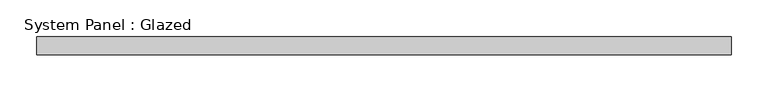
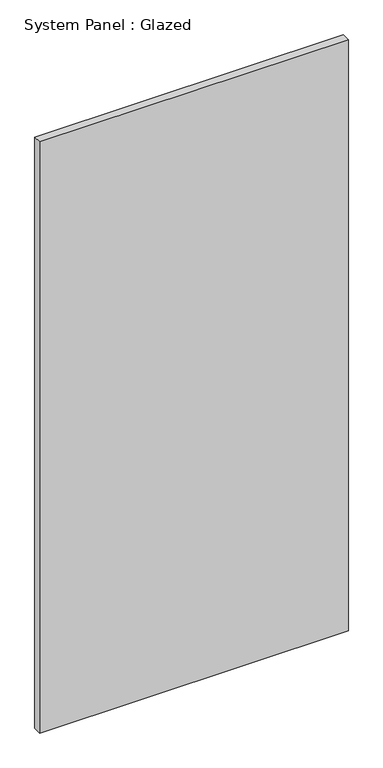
"""IFC4 building model written with IfcOpenShell, lengths in millimetres: plate geometry, System Panel : Glazed."""

import ifcopenshell
import ifcopenshell.guid

model = None  # the IFC model being written
_history = None  # IfcOwnerHistory: only IFC2X3 demands one
_inside = {}  # id of a spatial element -> (the spatial element, [elements in it])
_under = {}  # id of a project, library or spatial element -> (it, [spatial elements below it])
_declared = {}  # id of a project -> (the project, [libraries it declares])
_typed = {}  # id of a type object -> (the type object, [elements of that type])
_made_of = {}  # id of a material, layer set ... -> (it, [elements and type objects made of it])


def new_model(schema):
    """Start an empty IFC model of exactly this schema.

    Asked for "IFC4X3", IfcOpenShell would pick the latest addendum, in which some entities
    have other attributes; the version numbers below select the first issue.
    IFC2X3 requires an IfcOwnerHistory on every rooted entity: one is made here for all.
    """
    global model, _history
    if schema == "IFC4X3":
        model = ifcopenshell.file(schema_version=(4, 3, 0, 0))
    else:
        model = ifcopenshell.file(schema=schema)
    _inside.clear()
    _under.clear()
    _declared.clear()
    _typed.clear()
    _made_of.clear()
    _history = None
    if model.schema == "IFC2X3":
        org = make("IfcOrganization", Name="unknown")
        user = make(
            "IfcPersonAndOrganization",
            ThePerson=make("IfcPerson", FamilyName="unknown"),
            TheOrganization=org,
        )
        app = make(
            "IfcApplication",
            ApplicationDeveloper=org,
            Version="unknown",
            ApplicationFullName="unknown",
            ApplicationIdentifier="unknown",
        )
        _history = make(
            "IfcOwnerHistory",
            OwningUser=user,
            OwningApplication=app,
            ChangeAction="ADDED",
            CreationDate=0,
        )
    return model


def make(cls, **values):
    """One entity of the class cls with the attributes given. An attribute that is None is left unset."""
    return model.create_entity(
        cls, **{name: value for name, value in values.items() if value is not None}
    )


def rooted(cls, **values):
    """An entity with a GlobalId (a new one), such as an element, a storey or a relation."""
    return make(cls, GlobalId=ifcopenshell.guid.new(), OwnerHistory=_history, **values)


def si_unit(unit_type, name, prefix=None):
    """IfcSIUnit, for example si_unit("LENGTHUNIT", "METRE", prefix="MILLI")."""
    return make("IfcSIUnit", UnitType=unit_type, Prefix=prefix, Name=name)


def assignment(units):
    """IfcUnitAssignment: the units of a project."""
    return None if units is None else make("IfcUnitAssignment", Units=units)


def point(xyz):
    """IfcCartesianPoint."""
    return None if xyz is None else make("IfcCartesianPoint", Coordinates=xyz)


def direction(xyz):
    """IfcDirection."""
    return None if xyz is None else make("IfcDirection", DirectionRatios=xyz)


def frame(location, z_axis=None, x_axis=None):
    """IfcAxis2Placement3D, a coordinate frame: its origin and axes. An axis left out is left unset."""
    return make(
        "IfcAxis2Placement3D",
        Location=point(location),
        Axis=direction(z_axis),
        RefDirection=direction(x_axis),
    )


def origin():
    """The frame at (0, 0, 0) with its axes left unset."""
    return frame((0.0, 0.0, 0.0))


def origin_with_axes():
    """The frame at (0, 0, 0) with the z axis (0, 0, 1) and the x axis (1, 0, 0) written out."""
    return frame((0.0, 0.0, 0.0), z_axis=(0.0, 0.0, 1.0), x_axis=(1.0, 0.0, 0.0))


def place(relative_to, where):
    """IfcLocalPlacement: puts the frame where relative to a parent placement (None: the world)."""
    return make(
        "IfcLocalPlacement", PlacementRelTo=relative_to, RelativePlacement=where
    )


def context(
    kind, dimensions, precision=None, world=None, true_north=None, identifier=None
):
    """IfcGeometricRepresentationContext, for example the 3D "Model" context."""
    return make(
        "IfcGeometricRepresentationContext",
        ContextIdentifier=identifier,
        ContextType=kind,
        CoordinateSpaceDimension=dimensions,
        Precision=precision,
        WorldCoordinateSystem=world,
        TrueNorth=true_north,
    )


def project(units=None, contexts=None):
    """IfcProject with its units and contexts."""
    return rooted(
        "IfcProject",
        Name="project",
        RepresentationContexts=contexts,
        UnitsInContext=assignment(units),
    )


def spatial(cls, under=None, at=None, **own):
    """A site, building, storey or space (cls), placed at a placement, below another one or the project."""
    s = rooted(cls, ObjectPlacement=at, **own)
    if under is not None:
        _under.setdefault(under.id(), (under, []))[1].append(s)
    return s


def polyline(points):
    """IfcPolyline through the points."""
    return make("IfcPolyline", Points=[point(p) for p in points])


def outline(outer, holes=None, kind="AREA"):
    """IfcArbitraryClosedProfileDef: a profile drawn as a closed curve; with holes, ...WithVoids."""
    if holes is None:
        return make("IfcArbitraryClosedProfileDef", ProfileType=kind, OuterCurve=outer)
    return make(
        "IfcArbitraryProfileDefWithVoids",
        ProfileType=kind,
        OuterCurve=outer,
        InnerCurves=holes,
    )


def extrude(swept, where, along, depth):
    """IfcExtrudedAreaSolid: the profile swept, set in the frame where, extruded along a direction by depth."""
    return make(
        "IfcExtrudedAreaSolid",
        SweptArea=swept,
        Position=where,
        ExtrudedDirection=direction(along),
        Depth=depth,
    )


def shape(context_of_items, identifier, shape_type, items):
    """IfcShapeRepresentation: the items that make up one representation, for example the "Body"."""
    return make(
        "IfcShapeRepresentation",
        ContextOfItems=context_of_items,
        RepresentationIdentifier=identifier,
        RepresentationType=shape_type,
        Items=items,
    )


def source(mapping_origin, context_of_items, identifier, shape_type, items):
    """IfcRepresentationMap: a shape defined once, which mapped items show again and again."""
    return make(
        "IfcRepresentationMap",
        MappingOrigin=mapping_origin,
        MappedRepresentation=shape(context_of_items, identifier, shape_type, items),
    )


def transform(
    local_origin,
    x_axis=None,
    y_axis=None,
    z_axis=None,
    scale=None,
    scale2=None,
    scale3=None,
    uniform=True,
):
    """IfcCartesianTransformationOperator3D, or its non-uniform kind. x_axis, y_axis, z_axis: its Axis1, 2, 3."""
    if uniform:
        return make(
            "IfcCartesianTransformationOperator3D",
            Axis1=direction(x_axis),
            Axis2=direction(y_axis),
            LocalOrigin=point(local_origin),
            Scale=scale,
            Axis3=direction(z_axis),
        )
    return make(
        "IfcCartesianTransformationOperator3DnonUniform",
        Axis1=direction(x_axis),
        Axis2=direction(y_axis),
        LocalOrigin=point(local_origin),
        Scale=scale,
        Axis3=direction(z_axis),
        Scale2=scale2,
        Scale3=scale3,
    )


def mapped(mapping_source, mapping_target):
    """IfcMappedItem: shows the shape of a source again, moved by a transform."""
    return make(
        "IfcMappedItem", MappingSource=mapping_source, MappingTarget=mapping_target
    )


def made_of(thing, what):
    """Note that an element or type object is made of a material, layer set ...; save() writes the relation."""
    if what is not None:
        _made_of.setdefault(what.id(), (what, []))[1].append(thing)
    return thing


def element(
    cls,
    number,
    at=None,
    inside=None,
    cuts=None,
    type_object=None,
    material=None,
    context=None,
    identifier="Body",
    shape_type=None,
    held_by="IfcProductDefinitionShape",
    body=None,
    shapes=None,
    **own,
):
    """One element of the class cls, such as IfcWall. Its Tag is "e" and its number.

    at: its placement. inside: the storey or other place that contains it. cuts: it is an
    opening in that element (IfcRelVoidsElement). A single representation is given by context,
    identifier, shape_type and body (its items); several are given by shapes. held_by: the class
    of the entity that holds the representations. save() writes the other relations.
    """
    e = rooted(cls, Tag="e%d" % number, ObjectPlacement=at, **own)
    if body is not None:
        shapes = [shape(context, identifier, shape_type, body)]
    if shapes is not None:
        e.Representation = make(held_by, Representations=shapes)
    if inside is not None:
        _inside.setdefault(inside.id(), (inside, []))[1].append(e)
    if cuts is not None:
        rooted(
            "IfcRelVoidsElement", RelatingBuildingElement=cuts, RelatedOpeningElement=e
        )
    if type_object is not None:
        _typed.setdefault(type_object.id(), (type_object, []))[1].append(e)
    return made_of(e, material)


def aggregate(whole, parts):
    """IfcRelAggregates: a whole, such as a stair, and the parts it consists of."""
    return rooted("IfcRelAggregates", RelatingObject=whole, RelatedObjects=parts)


def save(model, path):
    """Write the relations noted so far, then the file.

    IfcRelAggregates (storeys below a building ...), IfcRelContainedInSpatialStructure (elements
    in a storey), IfcRelDefinesByType, IfcRelAssociatesMaterial and IfcRelDeclares: one each for
    every whole, place, type object, material and project.
    """
    for whole, parts in _under.values():
        aggregate(whole, parts)
    for where, things in _inside.values():
        rooted(
            "IfcRelContainedInSpatialStructure",
            RelatedElements=things,
            RelatingStructure=where,
        )
    for kind, things in _typed.values():
        rooted("IfcRelDefinesByType", RelatedObjects=things, RelatingType=kind)
    for what, things in _made_of.values():
        rooted("IfcRelAssociatesMaterial", RelatedObjects=things, RelatingMaterial=what)
    for by, libraries in _declared.values():
        rooted("IfcRelDeclares", RelatingContext=by, RelatedDefinitions=libraries)
    model.write(path)


def system_panel_glazed_4177c645(model_context):
    return source(origin(), model_context, "Body", "SweptSolid", [
        extrude(outline(polyline([(475.0, 24.5), (-475.0, 24.5), (-475.0, 49.5), (475.0, 49.5), (475.0, 24.5)])), origin_with_axes(), (0.0, 0.0, 1.0), 1922.2919866),
    ])


if __name__ == "__main__":
    model = new_model("IFC4")
    model_context = context("Model", 3, world=origin())
    ifc_project = project(units=[si_unit("LENGTHUNIT", "METRE", prefix="MILLI")], contexts=[model_context])
    site = spatial("IfcSite", under=ifc_project)
    building = spatial("IfcBuilding", under=site)
    placement = place(None, origin())
    system_panel_glazed_shape = system_panel_glazed_4177c645(model_context)
    element("IfcPlate", 1, ObjectType="System Panel : Glazed", at=placement, inside=building, context=model_context, shape_type="MappedRepresentation", body=[
        mapped(system_panel_glazed_shape, transform((0.0, 0.0, 0.0), x_axis=(1.0, 0.0, 0.0), y_axis=(0.0, 1.0, 0.0), z_axis=(0.0, 0.0, 1.0))),
    ])
    save(model, "model.ifc")
